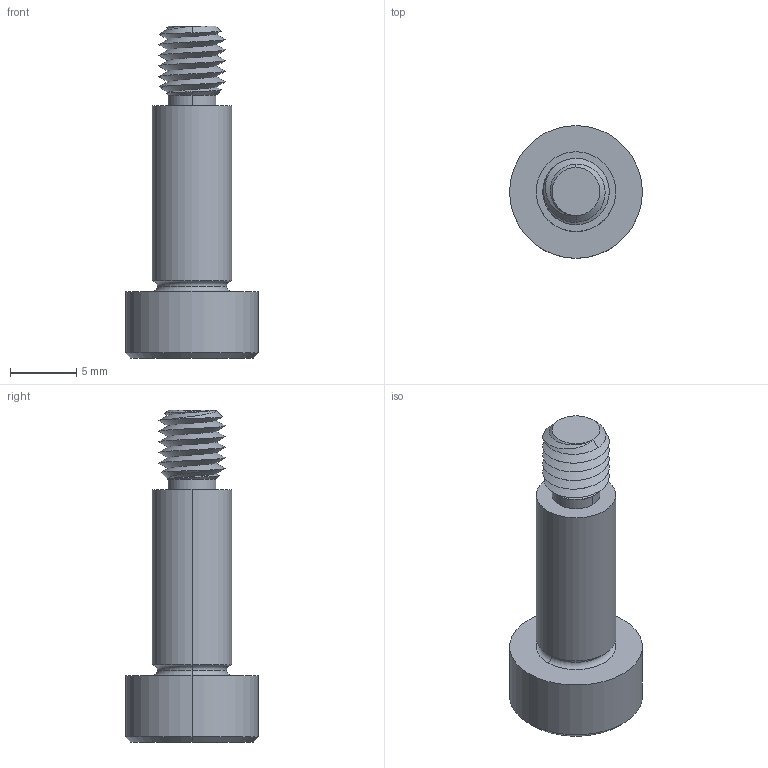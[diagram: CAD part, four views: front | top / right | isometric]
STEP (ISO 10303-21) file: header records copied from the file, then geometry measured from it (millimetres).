
FILE_DESCRIPTION (( 'STEP AP203' ), '1' );
FILE_NAME ('P0130.060-014-B2.step', '2021-11-09T21:24:20', ( '' ), ( '' ), 'SwSTEP 2.0', 'SolidWorks 2019', '' );
FILE_SCHEMA (( 'CONFIG_CONTROL_DESIGN' ));
Length unit declared in the file: millimetre
Products named in the file (1): P0130.060-014-B2
Bounding box: 10 x 10 x 25 mm (x, y, z)
Volume: 839.4 mm3; surface area: 751.4 mm2
Topology: 1 solids, 1 shells, 53 faces, 121 edges, 71 vertices
Faces by surface type: cylinder 17, plane 16, cone 14, torus 4, bspline 2
Entity records: 2367 total; most frequent: CARTESIAN_POINT 1186, ORIENTED_EDGE 238, DIRECTION 226, EDGE_CURVE 119, AXIS2_PLACEMENT_3D 92, VERTEX_POINT 71, EDGE_LOOP 56, FACE_OUTER_BOUND 53
